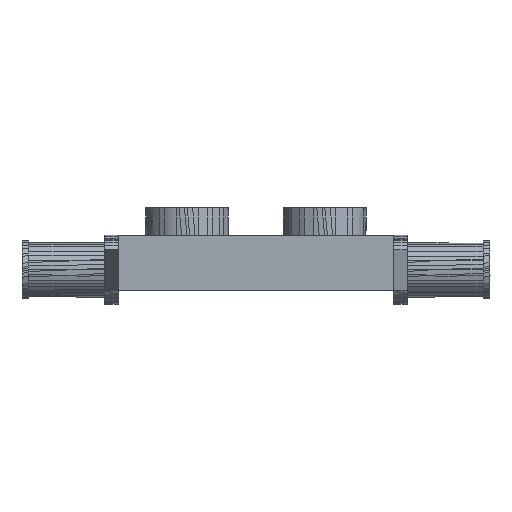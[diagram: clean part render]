
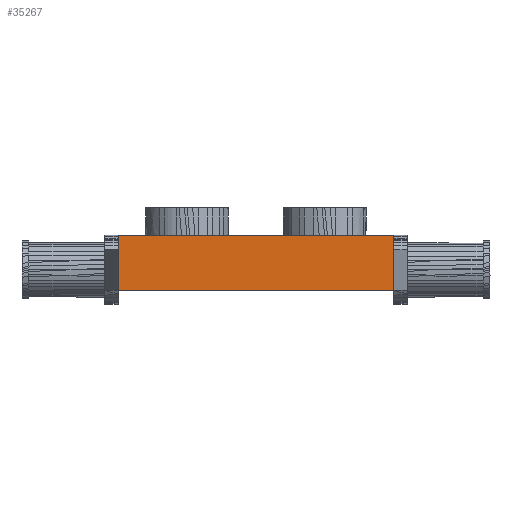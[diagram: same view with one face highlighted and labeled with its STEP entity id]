
A CAD part, front view. The second image highlights one B-rep face of the part: STEP entity #35267.
In plain terms, the highlighted planar face has unit normal (0, -1, 0).
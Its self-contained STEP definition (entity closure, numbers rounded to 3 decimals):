
#32 = PLANE('',#33);
#33 = AXIS2_PLACEMENT_3D('',#34,#35,#36);
#34 = CARTESIAN_POINT('',(-0.006,-0.002,
    0.794));
#35 = DIRECTION('',(0.,0.,-1.));
#36 = DIRECTION('',(0.,-1.,0.));
#843 = VERTEX_POINT('',#844);
#844 = CARTESIAN_POINT('',(7.997,-7.997,0.794)
  );
#858 = PLANE('',#859);
#859 = AXIS2_PLACEMENT_3D('',#860,#861,#862);
#860 = CARTESIAN_POINT('',(7.997,-1.547,3.709
    ));
#861 = DIRECTION('',(1.,0.,0.));
#862 = DIRECTION('',(0.,0.,1.));
#870 = EDGE_CURVE('',#843,#871,#873,.T.);
#871 = VERTEX_POINT('',#872);
#872 = CARTESIAN_POINT('',(-8.008,-7.997,
    0.794));
#873 = SURFACE_CURVE('',#874,(#878,#885),.PCURVE_S1.);
#874 = LINE('',#875,#876);
#875 = CARTESIAN_POINT('',(7.997,-7.997,0.794)
  );
#876 = VECTOR('',#877,1.);
#877 = DIRECTION('',(-1.,0.,0.));
#878 = PCURVE('',#32,#879);
#879 = DEFINITIONAL_REPRESENTATION('',(#880),#884);
#880 = LINE('',#881,#882);
#881 = CARTESIAN_POINT('',(7.995,-8.003));
#882 = VECTOR('',#883,1.);
#883 = DIRECTION('',(0.,1.));
#884 = ( GEOMETRIC_REPRESENTATION_CONTEXT(2) 
PARAMETRIC_REPRESENTATION_CONTEXT() REPRESENTATION_CONTEXT('2D SPACE',''
  ) );
#885 = PCURVE('',#886,#891);
#886 = PLANE('',#887);
#887 = AXIS2_PLACEMENT_3D('',#888,#889,#890);
#888 = CARTESIAN_POINT('',(-0.008,-7.997,
    2.394));
#889 = DIRECTION('',(0.,-1.,0.));
#890 = DIRECTION('',(-0.,0.,1.));
#891 = DEFINITIONAL_REPRESENTATION('',(#892),#896);
#892 = LINE('',#893,#894);
#893 = CARTESIAN_POINT('',(-1.599,-8.005));
#894 = VECTOR('',#895,1.);
#895 = DIRECTION('',(0.,1.));
#896 = ( GEOMETRIC_REPRESENTATION_CONTEXT(2) 
PARAMETRIC_REPRESENTATION_CONTEXT() REPRESENTATION_CONTEXT('2D SPACE',''
  ) );
#914 = PLANE('',#915);
#915 = AXIS2_PLACEMENT_3D('',#916,#917,#918);
#916 = CARTESIAN_POINT('',(-8.008,-1.547,
    3.709));
#917 = DIRECTION('',(1.,0.,0.));
#918 = DIRECTION('',(0.,0.,1.));
#6296 = PLANE('',#6297);
#6297 = AXIS2_PLACEMENT_3D('',#6298,#6299,#6300);
#6298 = CARTESIAN_POINT('',(-0.005,-0.002,
    3.993));
#6299 = DIRECTION('',(0.,0.,-1.));
#6300 = DIRECTION('',(0.,-1.,0.));
#6478 = VERTEX_POINT('',#6479);
#6479 = CARTESIAN_POINT('',(-8.008,-7.997,
    3.993));
#6499 = EDGE_CURVE('',#6478,#6500,#6502,.T.);
#6500 = VERTEX_POINT('',#6501);
#6501 = CARTESIAN_POINT('',(7.997,-7.997,3.993)
  );
#6502 = SURFACE_CURVE('',#6503,(#6507,#6514),.PCURVE_S1.);
#6503 = LINE('',#6504,#6505);
#6504 = CARTESIAN_POINT('',(-8.008,-7.997,
    3.993));
#6505 = VECTOR('',#6506,1.);
#6506 = DIRECTION('',(1.,0.,0.));
#6507 = PCURVE('',#6296,#6508);
#6508 = DEFINITIONAL_REPRESENTATION('',(#6509),#6513);
#6509 = LINE('',#6510,#6511);
#6510 = CARTESIAN_POINT('',(7.994,8.002));
#6511 = VECTOR('',#6512,1.);
#6512 = DIRECTION('',(0.,-1.));
#6513 = ( GEOMETRIC_REPRESENTATION_CONTEXT(2) 
PARAMETRIC_REPRESENTATION_CONTEXT() REPRESENTATION_CONTEXT('2D SPACE',''
  ) );
#6514 = PCURVE('',#886,#6515);
#6515 = DEFINITIONAL_REPRESENTATION('',(#6516),#6520);
#6516 = LINE('',#6517,#6518);
#6517 = CARTESIAN_POINT('',(1.599,8.));
#6518 = VECTOR('',#6519,1.);
#6519 = DIRECTION('',(0.,-1.));
#6520 = ( GEOMETRIC_REPRESENTATION_CONTEXT(2) 
PARAMETRIC_REPRESENTATION_CONTEXT() REPRESENTATION_CONTEXT('2D SPACE',''
  ) );
#35237 = EDGE_CURVE('',#871,#6478,#35238,.T.);
#35238 = SURFACE_CURVE('',#35239,(#35243,#35250),.PCURVE_S1.);
#35239 = LINE('',#35240,#35241);
#35240 = CARTESIAN_POINT('',(-8.008,-7.997,
    0.794));
#35241 = VECTOR('',#35242,1.);
#35242 = DIRECTION('',(0.,0.,1.));
#35243 = PCURVE('',#914,#35244);
#35244 = DEFINITIONAL_REPRESENTATION('',(#35245),#35249);
#35245 = LINE('',#35246,#35247);
#35246 = CARTESIAN_POINT('',(-2.915,6.45));
#35247 = VECTOR('',#35248,1.);
#35248 = DIRECTION('',(1.,0.));
#35249 = ( GEOMETRIC_REPRESENTATION_CONTEXT(2) 
PARAMETRIC_REPRESENTATION_CONTEXT() REPRESENTATION_CONTEXT('2D SPACE',''
  ) );
#35250 = PCURVE('',#886,#35251);
#35251 = DEFINITIONAL_REPRESENTATION('',(#35252),#35256);
#35252 = LINE('',#35253,#35254);
#35253 = CARTESIAN_POINT('',(-1.599,8.));
#35254 = VECTOR('',#35255,1.);
#35255 = DIRECTION('',(1.,0.));
#35256 = ( GEOMETRIC_REPRESENTATION_CONTEXT(2) 
PARAMETRIC_REPRESENTATION_CONTEXT() REPRESENTATION_CONTEXT('2D SPACE',''
  ) );
#35267 = ADVANCED_FACE('',(#35268),#886,.T.);
#35268 = FACE_BOUND('',#35269,.T.);
#35269 = EDGE_LOOP('',(#35270,#35271,#35292,#35293));
#35270 = ORIENTED_EDGE('',*,*,#870,.F.);
#35271 = ORIENTED_EDGE('',*,*,#35272,.F.);
#35272 = EDGE_CURVE('',#6500,#843,#35273,.T.);
#35273 = SURFACE_CURVE('',#35274,(#35278,#35285),.PCURVE_S1.);
#35274 = LINE('',#35275,#35276);
#35275 = CARTESIAN_POINT('',(7.997,-7.997,3.993
    ));
#35276 = VECTOR('',#35277,1.);
#35277 = DIRECTION('',(0.,0.,-1.));
#35278 = PCURVE('',#886,#35279);
#35279 = DEFINITIONAL_REPRESENTATION('',(#35280),#35284);
#35280 = LINE('',#35281,#35282);
#35281 = CARTESIAN_POINT('',(1.599,-8.005));
#35282 = VECTOR('',#35283,1.);
#35283 = DIRECTION('',(-1.,-0.));
#35284 = ( GEOMETRIC_REPRESENTATION_CONTEXT(2) 
PARAMETRIC_REPRESENTATION_CONTEXT() REPRESENTATION_CONTEXT('2D SPACE',''
  ) );
#35285 = PCURVE('',#858,#35286);
#35286 = DEFINITIONAL_REPRESENTATION('',(#35287),#35291);
#35287 = LINE('',#35288,#35289);
#35288 = CARTESIAN_POINT('',(0.284,6.45));
#35289 = VECTOR('',#35290,1.);
#35290 = DIRECTION('',(-1.,0.));
#35291 = ( GEOMETRIC_REPRESENTATION_CONTEXT(2) 
PARAMETRIC_REPRESENTATION_CONTEXT() REPRESENTATION_CONTEXT('2D SPACE',''
  ) );
#35292 = ORIENTED_EDGE('',*,*,#6499,.F.);
#35293 = ORIENTED_EDGE('',*,*,#35237,.F.);
